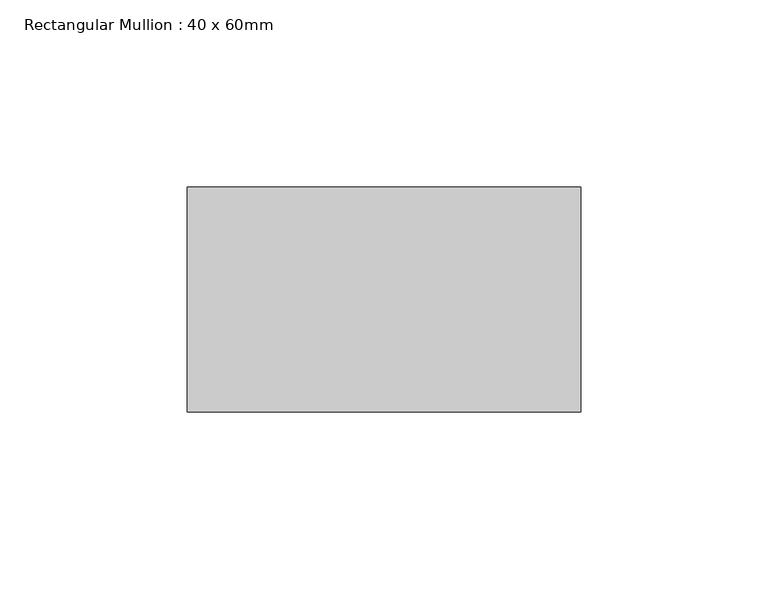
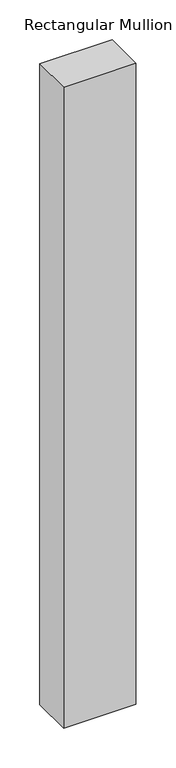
"""IFC4 building model written with IfcOpenShell, lengths in millimetres: member geometry, Rectangular Mullion : 40 x 60mm."""

from ifc_helpers import new_model, si_unit, frame, origin, place, context, project, spatial, polyline, outline, extrude, source, transform, mapped, element, save


def rectangular_mullion_40_x_60mm_8bd32e66(model_context):
    return source(origin(), model_context, "Body", "SweptSolid", [
        extrude(outline(polyline([(0.0, -10.0), (0.0, -70.0), (-105.0, -70.0), (-105.0, -10.0), (0.0, -10.0)])), frame((0.0, 0.0, -984.1848872), z_axis=(0.0, 0.0, 1.0), x_axis=(1.0, 0.0, 0.0)), (0.0, 0.0, 1.0), 984.1848872),
    ])


if __name__ == "__main__":
    model = new_model("IFC4")
    model_context = context("Model", 3, world=origin())
    ifc_project = project(units=[si_unit("LENGTHUNIT", "METRE", prefix="MILLI")], contexts=[model_context])
    site = spatial("IfcSite", under=ifc_project)
    building = spatial("IfcBuilding", under=site)
    placement = place(None, origin())
    rectangular_mullion_40_x_60mm_shape = rectangular_mullion_40_x_60mm_8bd32e66(model_context)
    element("IfcMember", 1, ObjectType="Rectangular Mullion : 40 x 60mm", at=placement, inside=building, context=model_context, shape_type="MappedRepresentation", body=[
        mapped(rectangular_mullion_40_x_60mm_shape, transform((0.0, 0.0, 0.0), x_axis=(1.0, 0.0, 0.0), y_axis=(0.0, 1.0, 0.0), z_axis=(0.0, 0.0, 1.0))),
    ])
    save(model, "model.ifc")
